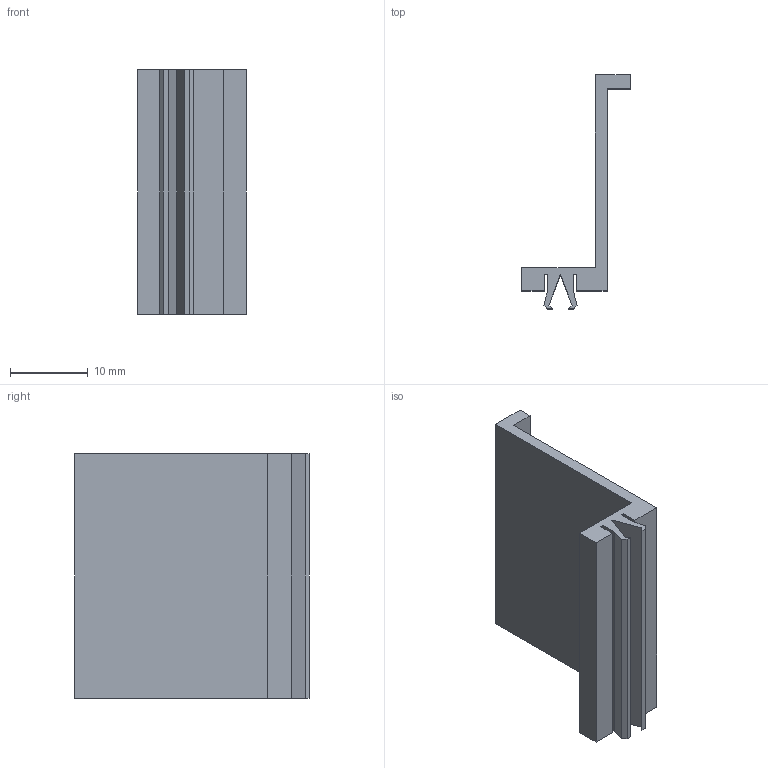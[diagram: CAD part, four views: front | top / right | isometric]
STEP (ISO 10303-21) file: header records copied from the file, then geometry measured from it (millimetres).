
FILE_DESCRIPTION(/* description */ (''),/* implementation_level */ '2;1');
FILE_NAME(/* name */ 'C:/Users/priba/Downloads/batt-lid-d-holderL.step',/* time_stamp */ '2020-11-13T08:25:22+01:00',/* author */ (''),/* organization */ (''),/* preprocessor_version */ 'ST-DEVELOPER v18.1',/* originating_system */ 'Autodesk Translation Framework v9.3.0.1241',/* authorisation */ '');
FILE_SCHEMA (('AUTOMOTIVE_DESIGN { 1 0 10303 214 3 1 1 }'));
Length unit declared in the file: millimetre
Products named in the file (1): batt-lid-d-holderL
Bounding box: 14 x 30.11 x 31.4 mm (x, y, z)
Volume: 2373.6 mm3; surface area: 3444.5 mm2
Topology: 1 solids, 1 shells, 28 faces, 78 edges, 52 vertices
Faces by surface type: plane 28
Entity records: 904 total; most frequent: CARTESIAN_POINT 159, ORIENTED_EDGE 156, DIRECTION 136, LINE 78, VECTOR 78, EDGE_CURVE 78, VERTEX_POINT 52, AXIS2_PLACEMENT_3D 29
